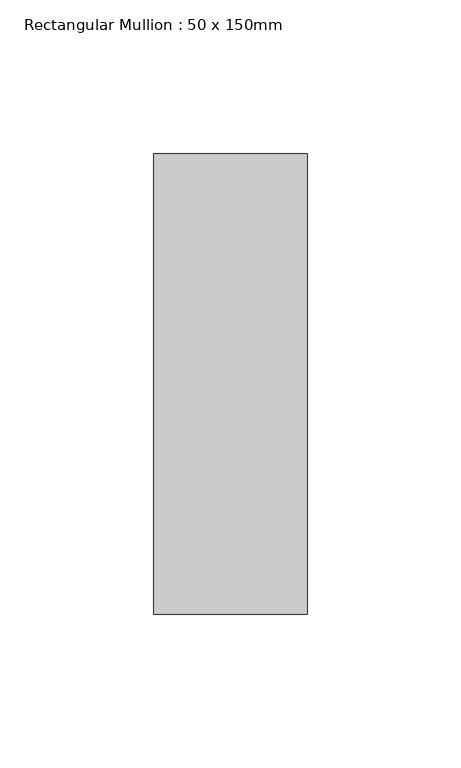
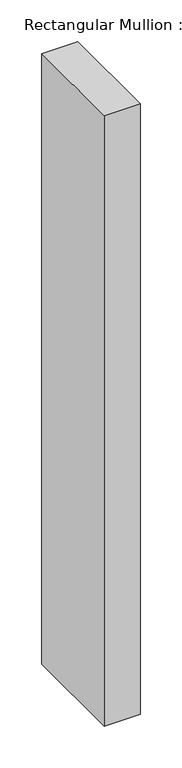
"""IFC4 building model written with IfcOpenShell, lengths in millimetres: member geometry, Rectangular Mullion : 50 x 150mm."""

from ifc_helpers import new_model, si_unit, frame, origin, place, context, project, spatial, polyline, outline, extrude, source, transform, mapped, element, save


def rectangular_mullion_50_x_150mm_060a51f6(model_context):
    return source(origin(), model_context, "Body", "SweptSolid", [
        extrude(outline(polyline([(0.0, 75.0), (0.0, -75.0), (-50.0, -75.0), (-50.0, 75.0), (0.0, 75.0)])), frame((0.0, 0.0, -895.0), z_axis=(0.0, 0.0, 1.0), x_axis=(1.0, 0.0, 0.0)), (0.0, 0.0, 1.0), 895.0),
    ])


if __name__ == "__main__":
    model = new_model("IFC4")
    model_context = context("Model", 3, world=origin())
    ifc_project = project(units=[si_unit("LENGTHUNIT", "METRE", prefix="MILLI")], contexts=[model_context])
    site = spatial("IfcSite", under=ifc_project)
    building = spatial("IfcBuilding", under=site)
    placement = place(None, origin())
    rectangular_mullion_50_x_150mm_shape = rectangular_mullion_50_x_150mm_060a51f6(model_context)
    element("IfcMember", 1, ObjectType="Rectangular Mullion : 50 x 150mm", at=placement, inside=building, context=model_context, shape_type="MappedRepresentation", body=[
        mapped(rectangular_mullion_50_x_150mm_shape, transform((0.0, 0.0, 0.0), x_axis=(1.0, 0.0, 0.0), y_axis=(0.0, 1.0, 0.0), z_axis=(0.0, 0.0, 1.0))),
    ])
    save(model, "model.ifc")
